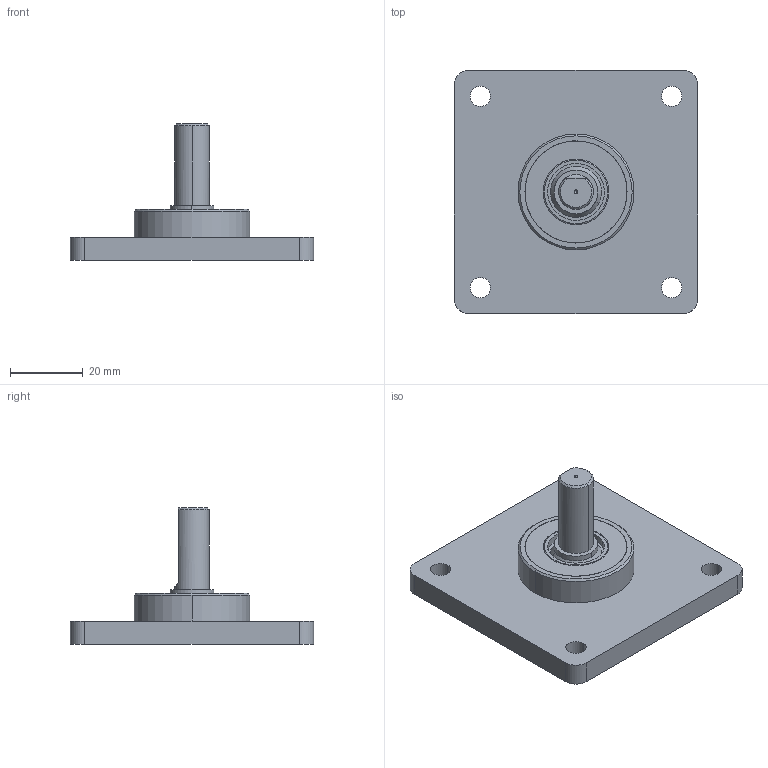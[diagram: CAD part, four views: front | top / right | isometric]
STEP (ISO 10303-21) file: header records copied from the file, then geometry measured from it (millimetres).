
FILE_DESCRIPTION (( 'STEP AP214' ), '1' );
FILE_NAME ('Drawing-MCD-5A7S-Q5A-N.STEP', '2016-02-03T09:22:47', ( '' ), ( '' ), 'SwSTEP 2.0', 'SolidWorks 2015', '' );
FILE_SCHEMA (( 'AUTOMOTIVE_DESIGN' ));
Length unit declared in the file: millimetre
Products named in the file (1): Drawing-MCD-5A7S-Q5A-N
Bounding box: 66.7 x 66.7 x 37.4 mm (x, y, z)
Volume: 32831.8 mm3; surface area: 19893 mm2
Topology: 15 solids, 15 shells, 346 faces, 862 edges, 558 vertices
Faces by surface type: plane 132, bspline 87, cylinder 59, torus 26, cone 26, sphere 16
Entity records: 18807 total; most frequent: CARTESIAN_POINT 7226, ORIENTED_EDGE 1640, DIRECTION 1366, EDGE_CURVE 820, VERTEX_POINT 534, AXIS2_PLACEMENT_3D 464, VECTOR 438, LINE 438
